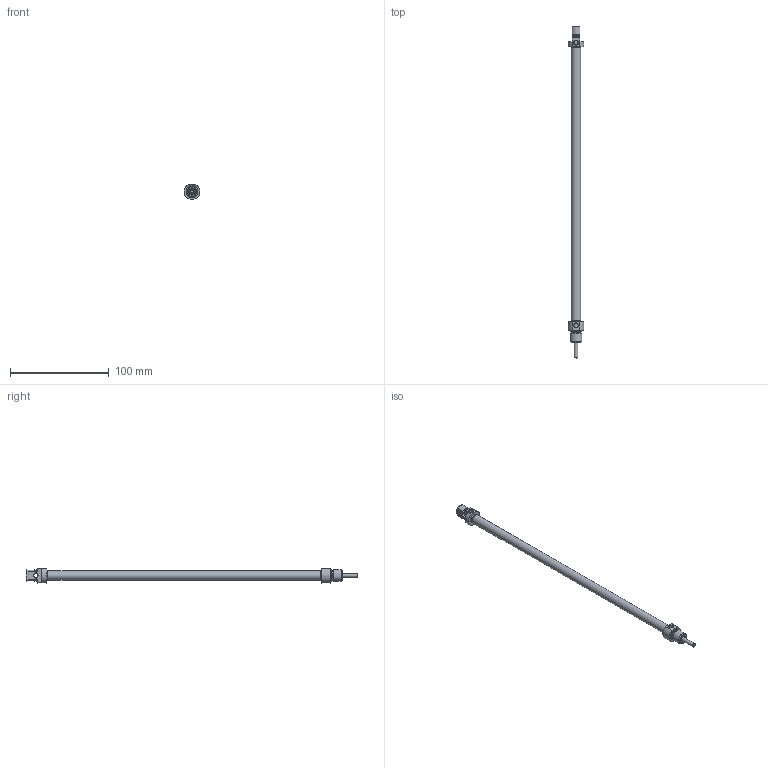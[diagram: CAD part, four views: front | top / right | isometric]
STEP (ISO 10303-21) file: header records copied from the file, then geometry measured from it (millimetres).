
FILE_DESCRIPTION((''),'2;1');
FILE_NAME('T:\Archivio Inventor\- 00 NUOVI STP PER SITO CON STELO CHE SI MUOVE\SERIE O\ODM\ODM008.---.GS.M\ODM008.250.GS.M.stp','2014-02-25T14:18:33',('carlo.corazza'),(''),'Autodesk Inventor 2012','Autodesk Inventor 2012','');
FILE_SCHEMA(('AUTOMOTIVE_DESIGN { 1 0 10303 214 1 1 1 1 }'));
Length unit declared in the file: millimetre
Products named in the file (5): ODM008..GS.M; TP; STELO-250; CORPO-250; TA
Assembly tree (4 placements, depth 2):
  ODM008..GS.M
    TP
    STELO-250
    CORPO-250
    TA
Bounding box: 16 x 336 x 15 mm (x, y, z)
Volume: 13832.2 mm3; surface area: 21988.2 mm2
Topology: 4 solids, 4 shells, 90 faces, 180 edges, 114 vertices
Faces by surface type: plane 32, cylinder 29, cone 22, torus 7
Full cylindrical faces by diameter (mm): 3 x1, 4 x2, 4.134 x2, 4.426 x1, 4.7 x1, 6.5 x1, 6.6 x1, 6.7 x1, 8 x1, 8.1 x1, 8.2 x1, 9.2 x2, 9.27 x1, 10 x1, 12 x2
Entity records: 2353 total; most frequent: CARTESIAN_POINT 419, DIRECTION 402, ORIENTED_EDGE 260, AXIS2_PLACEMENT_3D 183, EDGE_LOOP 154, EDGE_CURVE 130, VERTEX_POINT 108, FACE_OUTER_BOUND 90
